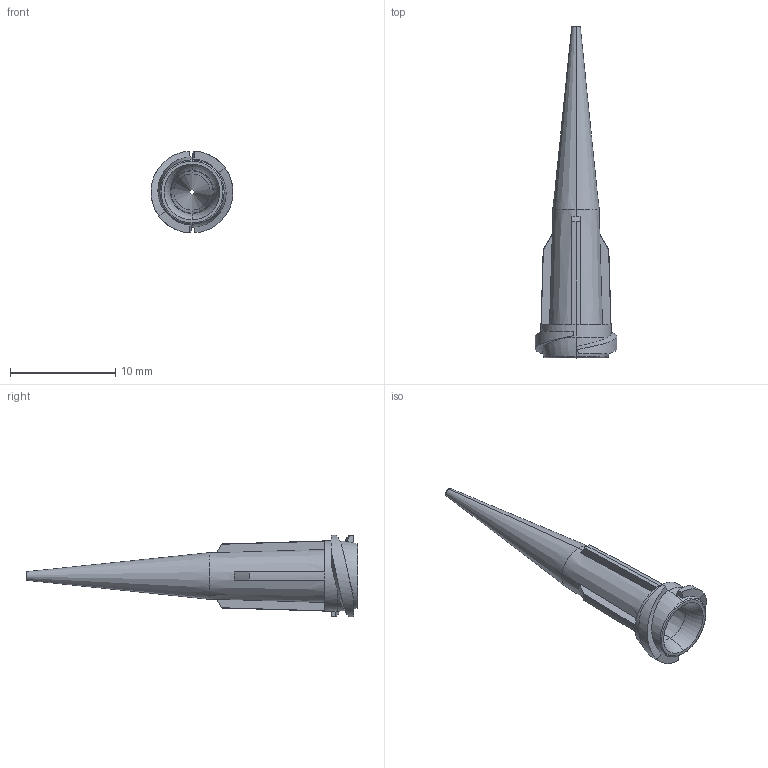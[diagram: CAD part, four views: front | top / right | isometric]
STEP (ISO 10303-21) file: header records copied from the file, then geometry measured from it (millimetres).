
FILE_DESCRIPTION (( 'STEP AP214' ), '1' );
FILE_NAME ('NORDSONEFD-7018292 TIP 22GA RTT 016 BL.STEP', '2019-02-18T01:31:11', ( '' ), ( '' ), 'SwSTEP 2.0', 'SolidWorks 2019', '' );
FILE_SCHEMA (( 'AUTOMOTIVE_DESIGN' ));
Length unit declared in the file: inch
Products named in the file (1): NORDSONEFD-7018292 TIP 22GA RTT 016 BL
Bounding box: 7.77 x 31.5 x 7.77 mm (x, y, z)
Volume: 210.3 mm3; surface area: 761.3 mm2
Topology: 1 solids, 1 shells, 58 faces, 144 edges, 88 vertices
Faces by surface type: plane 22, cone 14, bspline 12, torus 8, cylinder 2
Entity records: 2112 total; most frequent: CARTESIAN_POINT 801, ORIENTED_EDGE 288, DIRECTION 246, EDGE_CURVE 144, AXIS2_PLACEMENT_3D 103, VERTEX_POINT 88, EDGE_LOOP 60, ADVANCED_FACE 58
